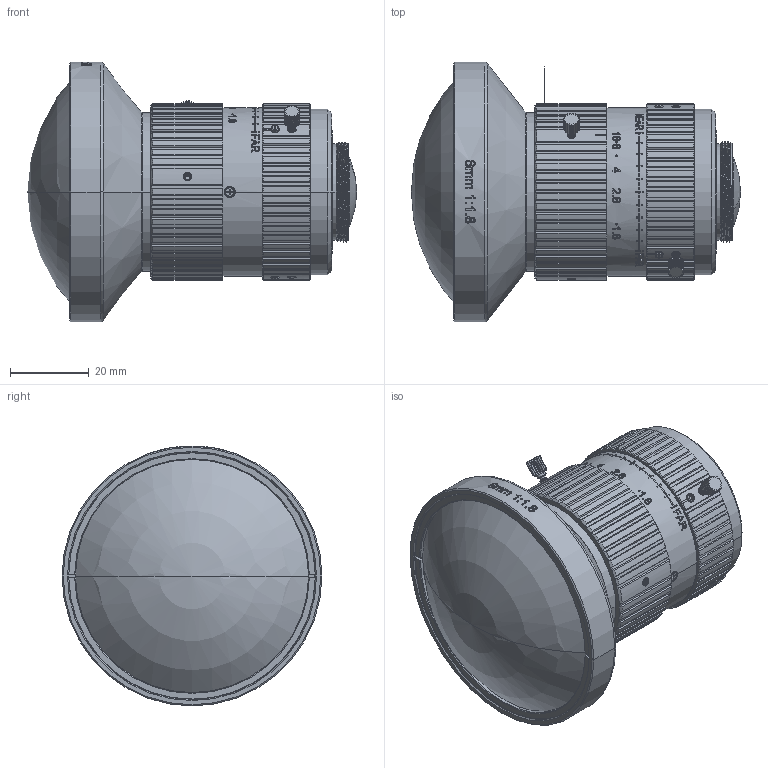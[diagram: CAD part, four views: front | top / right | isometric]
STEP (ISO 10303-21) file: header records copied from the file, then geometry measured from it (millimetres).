
FILE_DESCRIPTION((''),'2;1');
FILE_NAME('FA0615A-200FAR_ASM_ASM','2017-10-23T',('Administrator'),(''),'PRO/ENGINEER BY PARAMETRIC TECHNOLOGY CORPORATION, 2010370','PRO/ENGINEER BY PARAMETRIC TECHNOLOGY CORPORATION, 2010370','');
FILE_SCHEMA(('CONFIG_CONTROL_DESIGN'));
Length unit declared in the file: millimetre
Products named in the file (27): MSBR-93; MSBR-92; MSBR-91; MSBR-90; MSBR-89; MSBR-88; MSBR-87; MSBR-41; MSBR-40; MSBR-39; MSBR-38; MSBR-37; MSBR-36; MSBR-35; MSBR-34; MSBR-33; MSBR-20; MSBR-19; MSBR-18; MSBR-17; MSBR-7; MSBR-5; MSBR-4; MSBR-2; MSBR-1; FA0615A-501; FA0615A-200FAR_ASM_ASM
Assembly tree (26 placements, depth 2):
  FA0615A-200FAR_ASM_ASM
    MSBR-93
    MSBR-92
    MSBR-91
    MSBR-90
    MSBR-89
    MSBR-88
    MSBR-87
    MSBR-41
    MSBR-40
    MSBR-39
    MSBR-38
    MSBR-37
    MSBR-36
    MSBR-35
    MSBR-34
    MSBR-33
    MSBR-20
    MSBR-19
    MSBR-18
    MSBR-17
    MSBR-7
    MSBR-5
    MSBR-4
    MSBR-2
    MSBR-1
    FA0615A-501
Bounding box: 83.59 x 66 x 66 mm (x, y, z)
Volume: 76210.8 mm3; surface area: 58571.3 mm2
Topology: 23 solids, 23 shells, 2352 faces, 6445 edges, 4216 vertices
Faces by surface type: plane 772, cylinder 630, bspline 517, cone 395, torus 26, sphere 12
Entity records: 124006 total; most frequent: CARTESIAN_POINT 68277, ORIENTED_EDGE 12866, DIRECTION 9504, EDGE_CURVE 6433, VERTEX_POINT 4216, AXIS2_PLACEMENT_3D 3395, VECTOR 2714, LINE 2714
